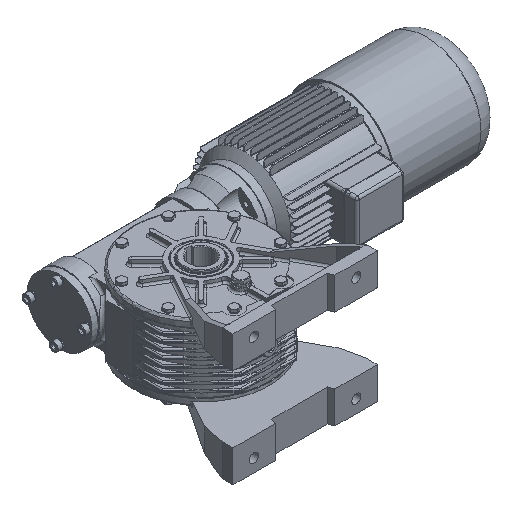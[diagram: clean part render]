
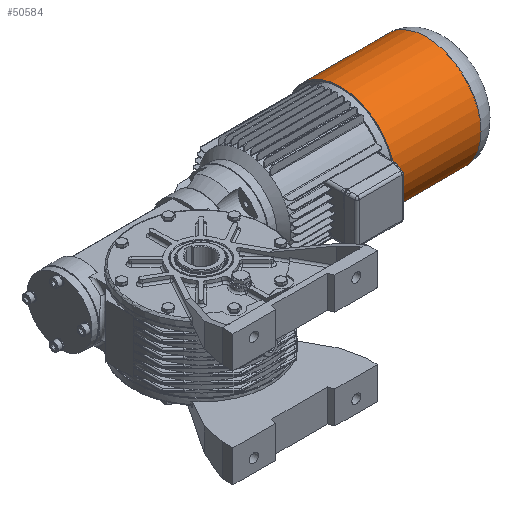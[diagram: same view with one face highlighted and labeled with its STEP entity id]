
A CAD part, isometric view. The second image highlights one B-rep face of the part: STEP entity #50584.
In plain terms, the highlighted cylindrical face has radius 85 mm (diameter 170 mm), a full revolution.
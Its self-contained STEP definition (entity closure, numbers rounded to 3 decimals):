
#50441=CARTESIAN_POINT('',(346.0,85.,0.0));
#50442=VERTEX_POINT('',#50441);
#50443=CARTESIAN_POINT('',(346.0,0.0,0.0));
#50444=DIRECTION('',(1.0,0.0,0.0));
#50445=DIRECTION('',(0.0,1.0,0.0));
#50446=AXIS2_PLACEMENT_3D('',#50443,#50444,#50445);
#50447=CIRCLE('',#50446,85.);
#50448=EDGE_CURVE('',#50442,#50442,#50447,.T.);
#50558=CARTESIAN_POINT('',(212.0,85.,0.0));
#50559=VERTEX_POINT('',#50558);
#50560=CARTESIAN_POINT('',(212.0,0.0,0.0));
#50561=DIRECTION('',(1.0,0.0,0.0));
#50562=DIRECTION('',(0.0,1.0,0.0));
#50563=AXIS2_PLACEMENT_3D('',#50560,#50561,#50562);
#50564=CIRCLE('',#50563,85.);
#50565=EDGE_CURVE('',#50559,#50559,#50564,.T.);
#50573=CARTESIAN_POINT('',(279.0,0.0,0.0));
#50574=DIRECTION('',(1.0,0.0,0.0));
#50575=DIRECTION('',(0.0,1.0,0.0));
#50576=AXIS2_PLACEMENT_3D('',#50573,#50574,#50575);
#50577=CYLINDRICAL_SURFACE('',#50576,85.);
#50578=ORIENTED_EDGE('',*,*,#50448,.F.);
#50579=EDGE_LOOP('',(#50578));
#50580=FACE_OUTER_BOUND('',#50579,.T.);
#50581=ORIENTED_EDGE('',*,*,#50565,.T.);
#50582=EDGE_LOOP('',(#50581));
#50583=FACE_BOUND('',#50582,.T.);
#50584=ADVANCED_FACE('',(#50580,#50583),#50577,.T.);
